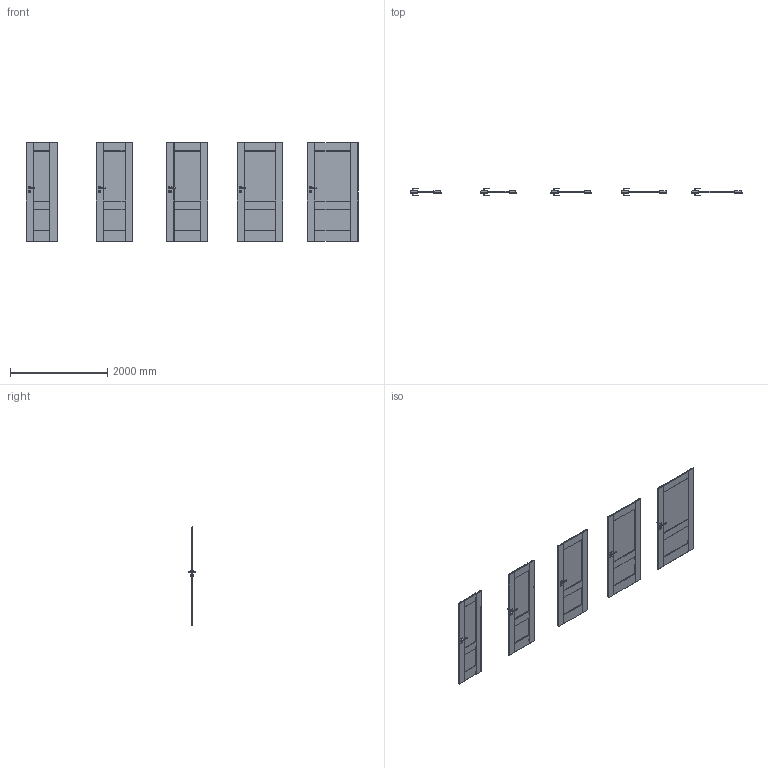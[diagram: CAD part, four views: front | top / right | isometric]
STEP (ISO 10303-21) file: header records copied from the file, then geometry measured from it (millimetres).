
FILE_DESCRIPTION(/* description */ (''),/* implementation_level */ '2;1');
FILE_NAME(/* name */ '049817_A_2-Skrzydło Verte Premium model C polska norma _PN__ przylgowe..stp',/* time_stamp */ '2024-08-27T11:56:29+02:00',/* author */ (''),/* organization */ (''),/* preprocessor_version */ 'ST-DEVELOPER v16',/* originating_system */ 'SIEMENS PLM Software NX 11.0',/* authorisation */ '');
FILE_SCHEMA (('AUTOMOTIVE_DESIGN { 1 0 10303 214 3 1 1 1 }'));
Products named in the file (1): bkni270064BBve8t
Bounding box: 6844 x 153.13 x 2030.02 mm (x, y, z)
Volume: 193490230.6 mm3; surface area: 19375478 mm2
Topology: 25 solids, 25 shells, 1870 faces, 5172 edges, 3177 vertices
Faces by surface type: plane 1055, cylinder 505, bspline 170, sphere 140
Entity records: 64504 total; most frequent: CARTESIAN_POINT 17602, ORIENTED_EDGE 10064, DIRECTION 9422, EDGE_CURVE 5032, LINE 3320, VECTOR 3320, VERTEX_POINT 3177, AXIS2_PLACEMENT_3D 3051
